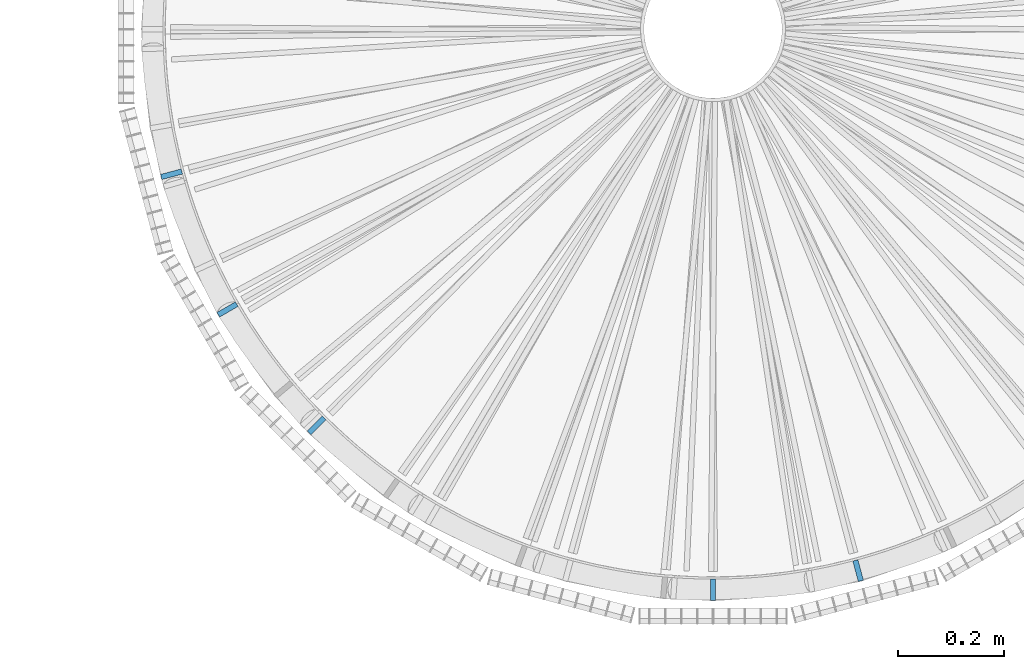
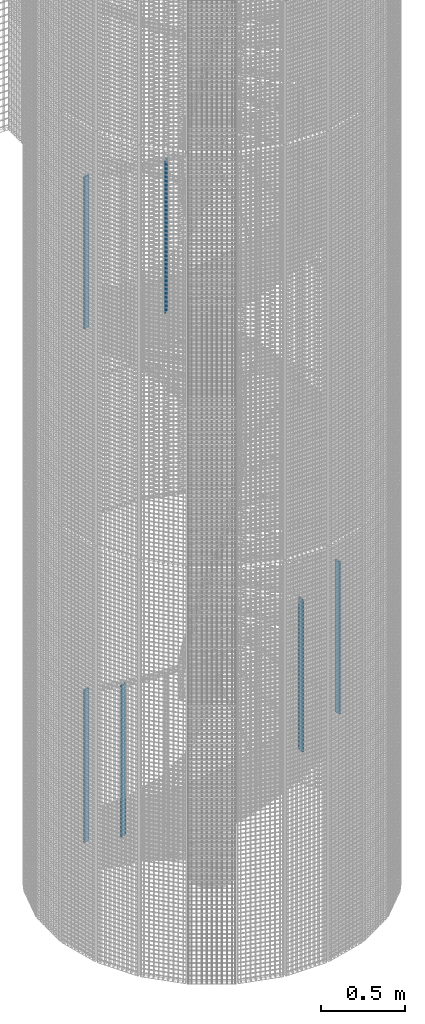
# One storey, part 3 of 1183: 6 columns, 6 elements without a shape of their own.
"""IFC2X3 building model written with IfcOpenShell, lengths in millimetres."""

from ifc_helpers import new_model, si_unit, frame, origin_with_axes, origin_2d_with_axis, place, context, subcontext, project, spatial, rectangle, extrude, material, type_object, element, aggregate, save


model = new_model("IFC2X3")

# Units and contexts
model_context = context("Model", 3, precision=1e-05, world=origin_with_axes())
body_context = subcontext(model_context, "Body", "Model", "MODEL_VIEW")
ifc_project = project(units=[si_unit("LENGTHUNIT", "METRE", prefix="MILLI"), si_unit("AREAUNIT", "SQUARE_METRE"), si_unit("VOLUMEUNIT", "CUBIC_METRE"), si_unit("MASSUNIT", "GRAM", prefix="KILO"), si_unit("TIMEUNIT", "SECOND"), si_unit("PLANEANGLEUNIT", "RADIAN"), si_unit("SOLIDANGLEUNIT", "STERADIAN"), si_unit("THERMODYNAMICTEMPERATUREUNIT", "DEGREE_CELSIUS"), si_unit("LUMINOUSINTENSITYUNIT", "LUMEN")], contexts=[model_context])

# Site, building, storey
site_placement = place(None, origin_with_axes())
site = spatial("IfcSite", under=ifc_project, at=site_placement, Name="Undefined", CompositionType="ELEMENT")
building_placement = place(site_placement, origin_with_axes())
building = spatial("IfcBuilding", under=site, at=building_placement, Name="Undefined", CompositionType="ELEMENT")
storey_placement = place(building_placement, origin_with_axes())
storey = spatial("IfcBuildingStorey", under=building, at=storey_placement, Name="Undefined", CompositionType="ELEMENT", Elevation=0.0)

# Assembly, column
assembly_1_placement = place(storey_placement, origin_with_axes())
assembly_1 = element("IfcElementAssembly", 1, at=assembly_1_placement, inside=storey, Name="MONTANT", AssemblyPlace="NOTDEFINED", PredefinedType="NOTDEFINED")
ifc_material = material(Name="STEEL/S235JR")
column_type = type_object("IfcColumnType", Name="PL10*40", PredefinedType="NOTDEFINED")
column_1_placement = place(assembly_1_placement, frame((272.795273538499, -1018.08582091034, 1699.72), z_axis=(0.0, 0.0, 1.0), x_axis=(-0.258819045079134, 0.965925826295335, 0.0)))
column_1 = element("IfcColumn", 2, at=column_1_placement, type_object=column_type, material=ifc_material, Name="MONTANT", context=body_context, shape_type="SweptSolid", body=[
    extrude(rectangle(XDim=10.0, YDim=40.0, at=origin_2d_with_axis()), frame((0.0, 0.0, 1100.0), z_axis=(0.0, 0.0, -1.0), x_axis=(0.0, 1.0, 0.0)), (0.0, 0.0, 1.0), 1100.0),
])
aggregate(assembly_1, [column_1])

assembly_2_placement = place(storey_placement, origin_with_axes())
assembly_2 = element("IfcElementAssembly", 3, at=assembly_2_placement, inside=storey, Name="MONTANT", AssemblyPlace="NOTDEFINED", PredefinedType="NOTDEFINED")
column_2_placement = place(assembly_2_placement, frame((-2.72848410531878e-12, -1054.00000000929, 1545.2), z_axis=(0.0, 0.0, 1.0), x_axis=(0.0, 1.0, 0.0)))
column_2 = element("IfcColumn", 4, at=column_2_placement, type_object=column_type, material=ifc_material, Name="MONTANT", context=body_context, shape_type="SweptSolid", body=[
    extrude(rectangle(XDim=10.0, YDim=40.0, at=origin_2d_with_axis()), frame((0.0, 0.0, 1100.0), z_axis=(0.0, 0.0, -1.0), x_axis=(0.0, 1.0, 0.0)), (0.0, 0.0, 1.0), 1100.0),
])
aggregate(assembly_2, [column_2])

assembly_3_placement = place(storey_placement, origin_with_axes())
assembly_3 = element("IfcElementAssembly", 5, at=assembly_3_placement, inside=storey, Name="MONTANT", AssemblyPlace="NOTDEFINED", PredefinedType="NOTDEFINED")
column_3_placement = place(assembly_3_placement, frame((-1018.08582091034, -272.795273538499, 772.6), z_axis=(0.0, 0.0, 1.0), x_axis=(0.965925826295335, 0.258819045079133, 0.0)))
column_3 = element("IfcColumn", 6, at=column_3_placement, type_object=column_type, material=ifc_material, Name="MONTANT", context=body_context, shape_type="SweptSolid", body=[
    extrude(rectangle(XDim=10.0, YDim=40.0, at=origin_2d_with_axis()), frame((0.0, 0.0, 1100.0), z_axis=(0.0, 0.0, -1.0), x_axis=(0.0, 1.0, 0.0)), (0.0, 0.0, 1.0), 1100.0),
])
aggregate(assembly_3, [column_3])

assembly_4_placement = place(storey_placement, origin_with_axes())
assembly_4 = element("IfcElementAssembly", 7, at=assembly_4_placement, inside=storey, Name="MONTANT", AssemblyPlace="NOTDEFINED", PredefinedType="NOTDEFINED")
column_4_placement = place(assembly_4_placement, frame((-1018.08582091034, -272.795273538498, 4481.08), z_axis=(0.0, 0.0, 1.0), x_axis=(0.965925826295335, 0.258819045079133, 0.0)))
column_4 = element("IfcColumn", 8, at=column_4_placement, type_object=column_type, material=ifc_material, Name="MONTANT", context=body_context, shape_type="SweptSolid", body=[
    extrude(rectangle(XDim=10.0, YDim=40.0, at=origin_2d_with_axis()), frame((0.0, 0.0, 1100.0), z_axis=(0.0, 0.0, -1.0), x_axis=(0.0, 1.0, 0.0)), (0.0, 0.0, 1.0), 1100.0),
])
aggregate(assembly_4, [column_4])

assembly_5_placement = place(storey_placement, origin_with_axes())
assembly_5 = element("IfcElementAssembly", 9, at=assembly_5_placement, inside=storey, Name="MONTANT", AssemblyPlace="NOTDEFINED", PredefinedType="NOTDEFINED")
column_5_placement = place(assembly_5_placement, frame((-745.290547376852, -745.290547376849, 4790.12), z_axis=(0.0, 0.0, 1.0), x_axis=(0.707106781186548, 0.707106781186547, 0.0)))
column_5 = element("IfcColumn", 10, at=column_5_placement, type_object=column_type, material=ifc_material, Name="MONTANT", context=body_context, shape_type="SweptSolid", body=[
    extrude(rectangle(XDim=10.0, YDim=40.0, at=origin_2d_with_axis()), frame((0.0, 0.0, 1100.0), z_axis=(0.0, 0.0, -1.0), x_axis=(0.0, 1.0, 0.0)), (0.0, 0.0, 1.0), 1100.0),
])
aggregate(assembly_5, [column_5])

assembly_6_placement = place(storey_placement, origin_with_axes())
assembly_6 = element("IfcElementAssembly", 11, at=assembly_6_placement, inside=storey, Name="MONTANT", AssemblyPlace="NOTDEFINED", PredefinedType="NOTDEFINED")
column_6_placement = place(assembly_6_placement, frame((-912.790775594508, -527.000000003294, 927.12), z_axis=(0.0, 0.0, 1.0), x_axis=(0.866025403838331, 0.499999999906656, 0.0)))
column_6 = element("IfcColumn", 12, at=column_6_placement, type_object=column_type, material=ifc_material, Name="MONTANT", context=body_context, shape_type="SweptSolid", body=[
    extrude(rectangle(XDim=10.0, YDim=40.0, at=origin_2d_with_axis()), frame((0.0, 0.0, 1100.0), z_axis=(0.0, 0.0, -1.0), x_axis=(0.0, 1.0, 0.0)), (0.0, 0.0, 1.0), 1100.0),
])
aggregate(assembly_6, [column_6])

save(model, "model.ifc")
